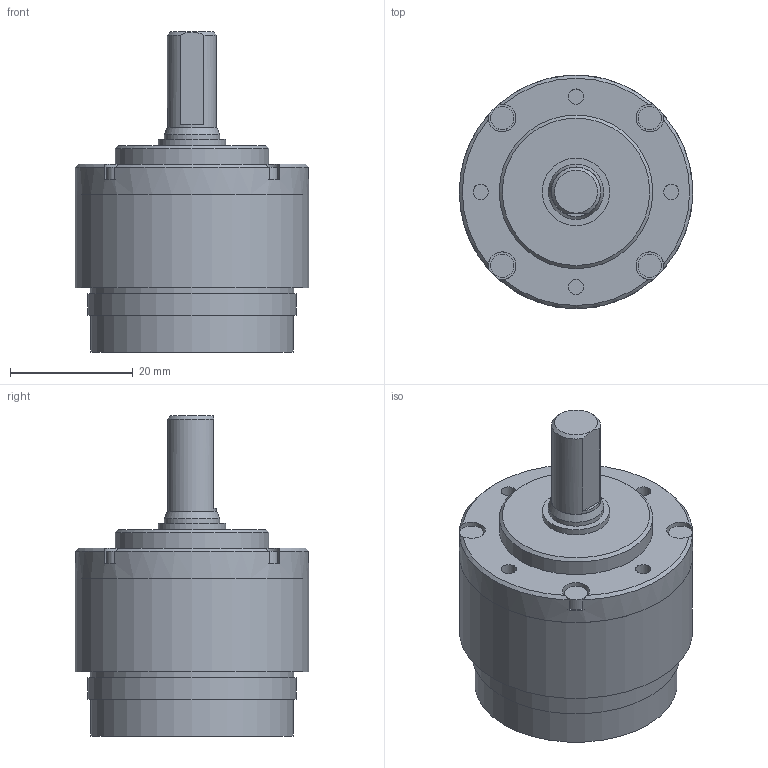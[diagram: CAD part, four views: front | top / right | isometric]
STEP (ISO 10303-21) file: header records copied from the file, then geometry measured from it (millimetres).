
FILE_DESCRIPTION(/* description */ (''),/* implementation_level */ '2;1');
FILE_NAME(/* name */ '38-2_2.stp',/* time_stamp */ '2016-09-16T10:39:25+02:00',/* author */ ('DR. FRITZ FAULHABER GmbH & Co. KG'),/* organization */ ('DR. FRITZ FAULHABER GmbH & Co. KG'),/* preprocessor_version */ 'ST-DEVELOPER v16',/* originating_system */ 'SIEMENS PLM Software NX 10.0',/* authorisation */ '');
FILE_SCHEMA (('AUTOMOTIVE_DESIGN { 1 0 10303 214 3 1 1 1 }'));
Length unit declared in the file: millimetre
Products named in the file (1): huge19E82220l2ol
Bounding box: 38 x 38 x 52.1 mm (x, y, z)
Volume: 33649.6 mm3; surface area: 7057.3 mm2
Topology: 1 solids, 1 shells, 62 faces, 118 edges, 79 vertices
Faces by surface type: plane 29, cylinder 26, cone 7
Full cylindrical faces by diameter (mm): 2.5 x4, 3.8 x4, 8 x1, 9 x1, 11 x1, 11.8 x1, 12 x1, 25 x1, 26.9 x1, 27.57 x1, 33 x1, 33.2 x1, 34 x1, 37.99 x1, 38 x2
Entity records: 1468 total; most frequent: DIRECTION 271, CARTESIAN_POINT 257, ORIENTED_EDGE 176, AXIS2_PLACEMENT_3D 130, EDGE_LOOP 107, EDGE_CURVE 88, FACE_BOUND 86, VERTEX_POINT 73
